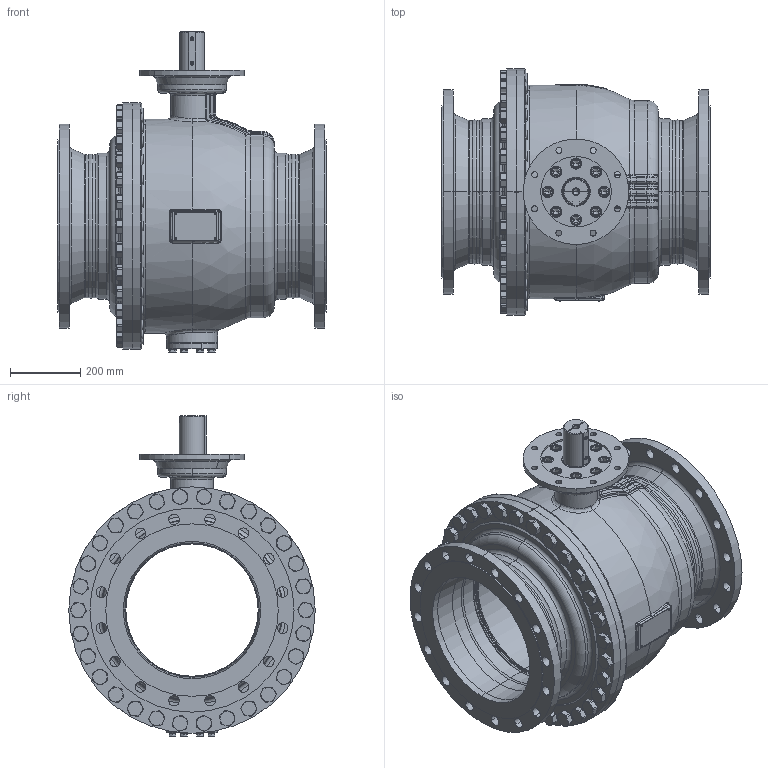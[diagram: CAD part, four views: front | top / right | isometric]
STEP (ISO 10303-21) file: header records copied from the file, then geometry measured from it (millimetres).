
FILE_DESCRIPTION((''),'2;1');
FILE_NAME('KHI-F_400_PN016-F25-P_SW0001','2026-02-05T16:09:05',('fischerkl'),('KLINGER'),'CREO PARAMETRIC BY PTC INC, 2023014','CREO PARAMETRIC BY PTC INC, 2023014','');
FILE_SCHEMA(('CONFIG_CONTROL_DESIGN'));
Products named in the file (1): KHI-F_400_PN016-F25-P_SW0001
Bounding box: 762 x 700 x 911.3 mm (x, y, z)
Volume: 53156386.3 mm3; surface area: 6777739.3 mm2
Topology: 1 solids, 4 shells, 3581 faces, 9022 edges, 5636 vertices
Faces by surface type: plane 1771, cylinder 861, cone 508, torus 311, bspline 99, sphere 31
Entity records: 153316 total; most frequent: CARTESIAN_POINT 68071, ORIENTED_EDGE 17992, DIRECTION 17656, EDGE_CURVE 8996, AXIS2_PLACEMENT_3D 6778, VERTEX_POINT 5636, VECTOR 4100, LINE 4100
